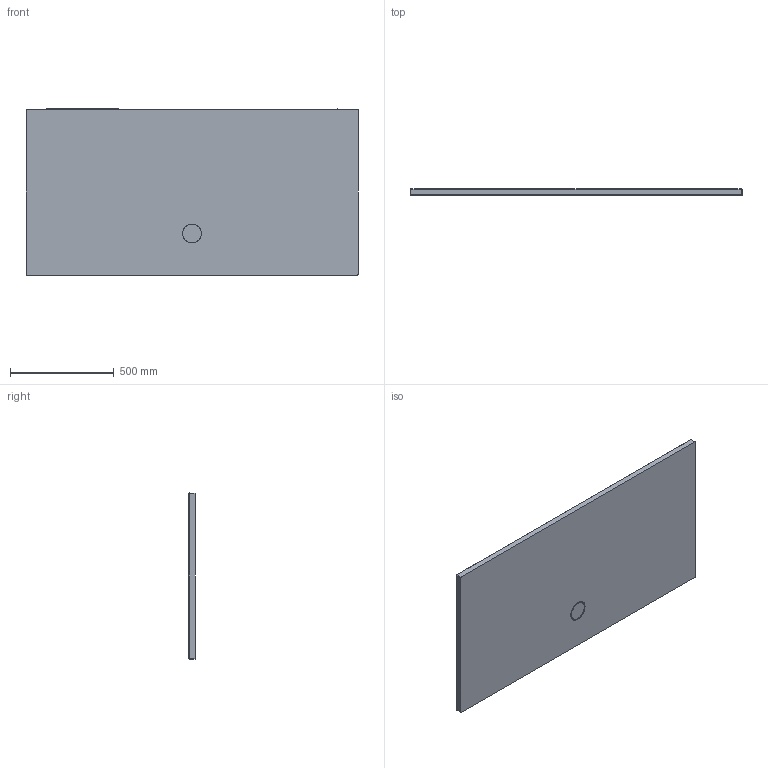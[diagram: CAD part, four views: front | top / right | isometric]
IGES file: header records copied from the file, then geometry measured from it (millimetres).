
Start section: SolidWorks IGES file using analytic representation for surfaces
Global section: file name: Y:\TKT\_PLIKI DLA ARCHITEKTÓW\02_AKRYL\BRODZIKI\seria SPACE MINERAL\IGS\B_M_80x160x1,5.IGS; native system: SolidWorks 2011; preprocessor: SolidWorks 2011; author: M.Szymanski; date: 180215.155431; units: millimetre
Bounding box: 1600 x 30 x 800 mm (x, y, z)
Surface area: 2716564.7 mm2 (no closed solid volume)
Topology: 0 solids, 0 shells, 61 faces, 739 edges, 736 vertices
Faces by surface type: bspline 39, revolution 22
